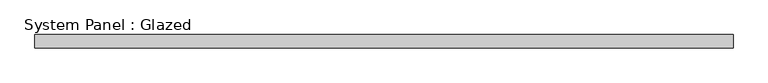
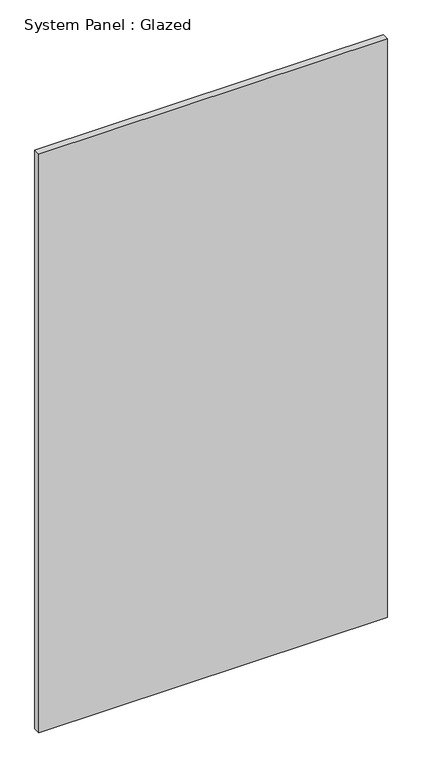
"""IFC4 building model written with IfcOpenShell, lengths in millimetres: plate geometry, System Panel : Glazed."""

from ifc_helpers import new_model, si_unit, origin, origin_with_axes, place, context, project, spatial, polyline, outline, extrude, source, transform, mapped, element, save


def system_panel_glazed_382bff3c(model_context):
    return source(origin(), model_context, "Body", "SweptSolid", [
        extrude(outline(polyline([(662.5576759, 24.5), (-662.5576759, 24.5), (-662.5576759, 49.5), (662.5576759, 49.5), (662.5576759, 24.5)])), origin_with_axes(), (0.0, 0.0, 1.0), 2325.0),
    ])


if __name__ == "__main__":
    model = new_model("IFC4")
    model_context = context("Model", 3, world=origin())
    ifc_project = project(units=[si_unit("LENGTHUNIT", "METRE", prefix="MILLI")], contexts=[model_context])
    site = spatial("IfcSite", under=ifc_project)
    building = spatial("IfcBuilding", under=site)
    placement = place(None, origin())
    system_panel_glazed_shape = system_panel_glazed_382bff3c(model_context)
    element("IfcPlate", 1, ObjectType="System Panel : Glazed", at=placement, inside=building, context=model_context, shape_type="MappedRepresentation", body=[
        mapped(system_panel_glazed_shape, transform((0.0, 0.0, 0.0), x_axis=(1.0, 0.0, 0.0), y_axis=(0.0, 1.0, 0.0), z_axis=(0.0, 0.0, 1.0))),
    ])
    save(model, "model.ifc")
